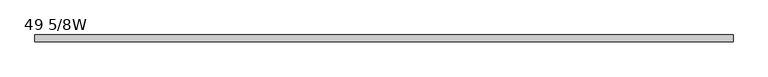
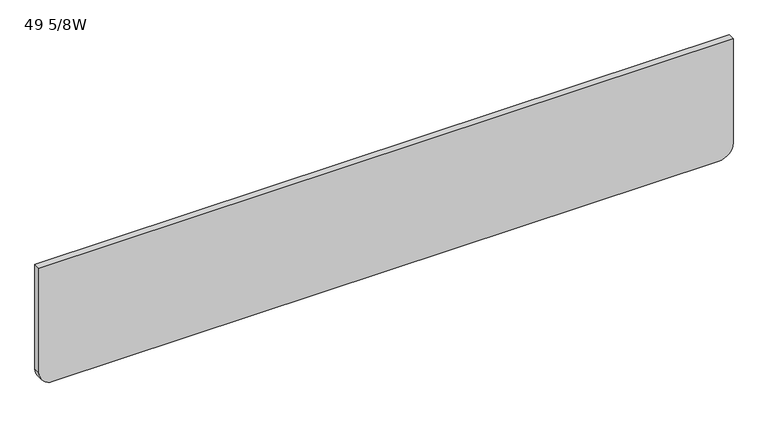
"""IFC4 building model written with IfcOpenShell, lengths in millimetres: furniture geometry, Steelcase - Groupwork - Table Component - Modesty Panel : 49 5/8W."""

from ifc_helpers import new_model, si_unit, point, frame, frame_2d, origin, place, context, project, spatial, polyline, circle_curve, trimmed, segment, composite_curve, outline, extrude, source, transform, mapped, element, save


def furniture_49_5_8w_46fa39df(model_context):
    return source(origin(), model_context, "Body", "SweptSolid", [
        extrude(outline(composite_curve([segment(polyline([(497.8399855, 1508.3116774), (698.5000242, 1508.3116774), (698.5000242, 247.2016774), (497.8399855, 247.2016774)]), True, "CONTINUOUS"), segment(trimmed(circle_curve(frame_2d((497.8399855, 272.6016774)), 25.4), [point((497.8399855, 247.2016774))], [point((472.4399855, 272.6016774))], False, "CARTESIAN"), True, "CONTINUOUS"), segment(polyline([(472.4399855, 272.6016774), (472.4399855, 1482.9116774)]), True, "CONTINUOUS"), segment(trimmed(circle_curve(frame_2d((497.8399855, 1482.9116774)), 25.4), [point((472.4399855, 1482.9116774))], [point((497.8399855, 1508.3116774))], False, "CARTESIAN"), True, "CONTINUOUS")], self_intersect=False)), frame((0.0, -585.8617631, 0.0), z_axis=(0.0, 1.0, 0.0), x_axis=(0.0, 0.0, 1.0)), (0.0, 0.0, 1.0), 12.7),
    ])


if __name__ == "__main__":
    model = new_model("IFC4")
    model_context = context("Model", 3, world=origin())
    ifc_project = project(units=[si_unit("LENGTHUNIT", "METRE", prefix="MILLI")], contexts=[model_context])
    site = spatial("IfcSite", under=ifc_project)
    building = spatial("IfcBuilding", under=site)
    placement = place(None, origin())
    furniture_49_5_8w_shape = furniture_49_5_8w_46fa39df(model_context)
    element("IfcFurniture", 1, ObjectType="Steelcase - Groupwork - Table Component - Modesty Panel : 49 5/8W", at=placement, inside=building, context=model_context, shape_type="MappedRepresentation", body=[
        mapped(furniture_49_5_8w_shape, transform((0.0, 0.0, 0.0), x_axis=(1.0, 0.0, 0.0), y_axis=(0.0, 1.0, 0.0), z_axis=(0.0, 0.0, 1.0))),
    ])
    save(model, "model.ifc")
